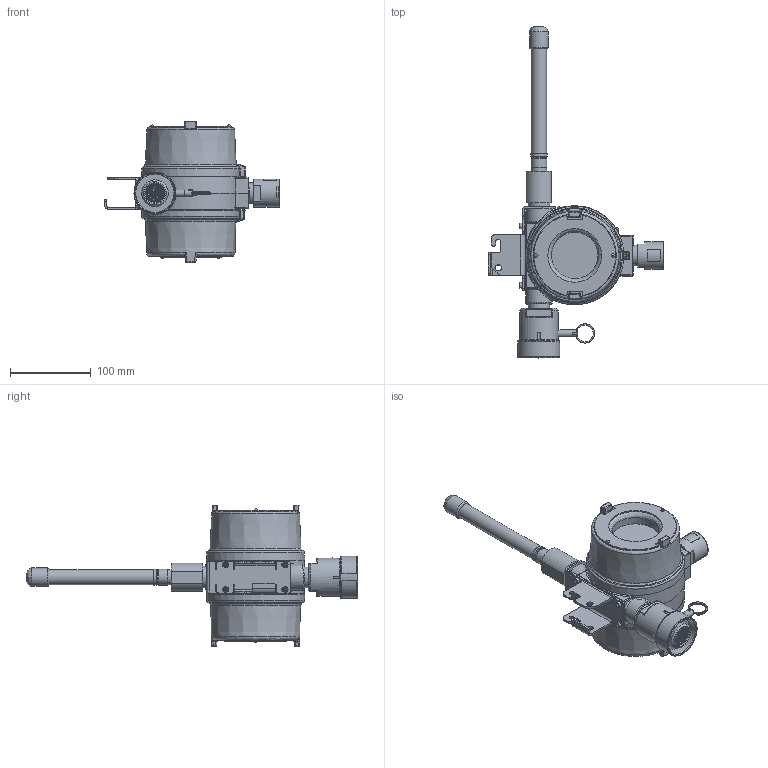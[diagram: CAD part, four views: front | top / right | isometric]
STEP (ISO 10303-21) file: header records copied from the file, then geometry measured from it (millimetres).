
FILE_DESCRIPTION (( 'STEP AP214' ), '1' );
FILE_NAME ('VGD-TCD60H2A03_07_V23.STEP', '2025-03-17T17:21:23', ( '' ), ( '' ), 'SwSTEP 2.0', 'SolidWorks 2023', '' );
FILE_SCHEMA (( 'AUTOMOTIVE_DESIGN' ));
Length unit declared in the file: inch
Products named in the file (1): VGD-TCD60H2A03_07_V23
Bounding box: 218.43 x 412.16 x 175.99 mm (x, y, z)
Surface area: 188761 mm2 (no closed solid volume)
Topology: 0 solids, 197 shells, 787 faces, 2228 edges, 1425 vertices
Faces by surface type: bspline 377, plane 191, cylinder 168, cone 36, sphere 9, torus 6
Full cylindrical faces by diameter (mm): 2.381 x1, 2.383 x2, 5.08 x1, 6.35 x3, 6.858 x4, 8.731 x1, 9.525 x1, 18.517 x1, 19.05 x3, 19.558 x1, 20.066 x1, 22.225 x2, 22.86 x2, 23.368 x1, 25.4 x1, 28.702 x1, 30.48 x1, 30.988 x1, 31.496 x1, 32.544 x2, 33.198 x1, 33.782 x1, 34.544 x1, 47.574 x1, 47.752 x1, 52.07 x1, 57.912 x1, 66.675 x1, 76.2 x1
Entity records: 50249 total; most frequent: CARTESIAN_POINT 33734, DIRECTION 3068, ORIENTED_EDGE 2969, EDGE_CURVE 1840, VERTEX_POINT 1333, AXIS2_PLACEMENT_3D 1263, EDGE_LOOP 1139, FACE_OUTER_BOUND 1052
